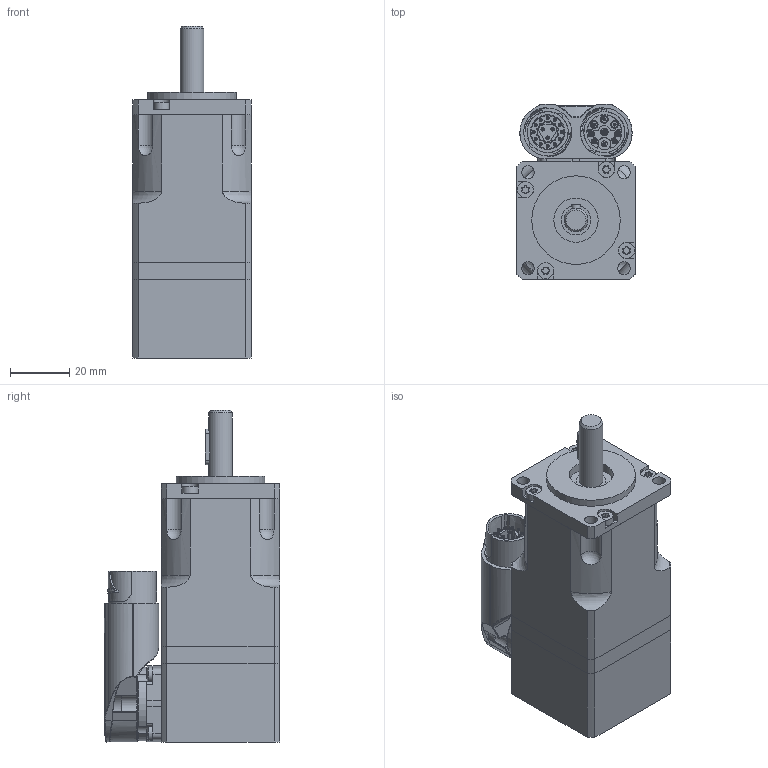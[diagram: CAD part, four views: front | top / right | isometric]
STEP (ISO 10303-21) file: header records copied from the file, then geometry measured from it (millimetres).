
FILE_DESCRIPTION(/* description */ (''),/* implementation_level */ '2;1');
FILE_NAME(/* name */ 'C:\Users\Public\Documents\Autodesk\Inventor LT 2014\Workspace\TG0\3D\tg0_definitivi\DSM5_0x_x0xD\DSM5_04_x0xD.stp',/* time_stamp */ '2016-04-28T09:48:12+02:00',/* author */ ('motion'),/* organization */ (''),/* preprocessor_version */ 'ST-DEVELOPER v15.2',/* originating_system */ 'Autodesk Inventor LT ',/* authorisation */ '');
FILE_SCHEMA (('AUTOMOTIVE_DESIGN { 1 0 10303 214 3 1 1 }'));
Length unit declared in the file: millimetre
Products named in the file (1): DSM5_04_x0xD
Bounding box: 40 x 59.3 x 112.5 mm (x, y, z)
Volume: 104166.9 mm3; surface area: 49100.4 mm2
Topology: 15 solids, 15 shells, 1125 faces, 2951 edges, 1928 vertices
Faces by surface type: cylinder 425, plane 291, bspline 250, cone 79, torus 63, sphere 17
Full cylindrical faces by diameter (mm): 1 x24, 1.2 x3, 1.8 x5, 2.05 x4, 2.224 x4, 2.5 x4, 2.7 x4, 3.2 x6, 4 x2, 4.3 x4, 5 x4, 5.35 x6, 6 x2, 8 x2, 10 x1, 11.75 x1, 15 x1, 16 x1, 16.2 x2, 17.025 x1, 18.8 x1, 19.8 x1, 21.9 x1, 26 x2, 30 x1, 35 x5
Entity records: 40674 total; most frequent: CARTESIAN_POINT 14159, ORIENTED_EDGE 5594, DIRECTION 5246, EDGE_CURVE 2797, AXIS2_PLACEMENT_3D 2221, VERTEX_POINT 1911, EDGE_LOOP 1362, CIRCLE 1225
